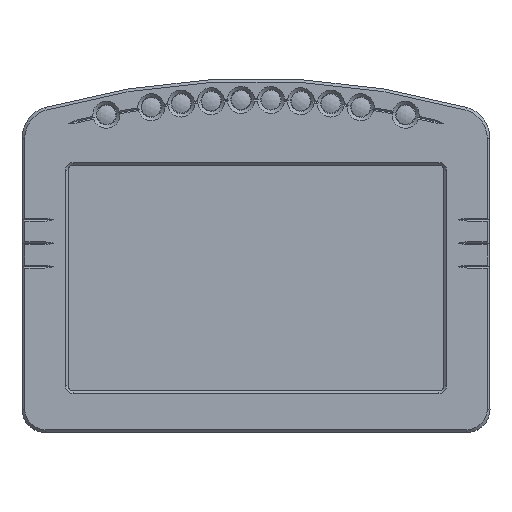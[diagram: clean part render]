
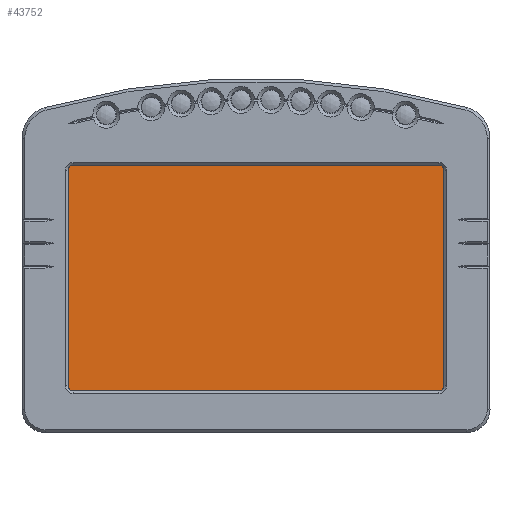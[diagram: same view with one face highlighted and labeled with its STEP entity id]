
A CAD part, top view. The second image highlights one B-rep face of the part: STEP entity #43752.
In plain terms, the highlighted planar face has unit normal (0, 0, 1).
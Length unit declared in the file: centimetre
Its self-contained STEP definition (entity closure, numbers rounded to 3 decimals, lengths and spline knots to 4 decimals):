
#2776=CIRCLE('',#45722,0.15);
#2777=CIRCLE('',#45725,0.15);
#2778=CIRCLE('',#45727,0.15);
#2779=CIRCLE('',#45730,0.15);
#6335=VERTEX_POINT('',#64463);
#6336=VERTEX_POINT('',#64465);
#6337=VERTEX_POINT('',#64469);
#6338=VERTEX_POINT('',#64473);
#6339=VERTEX_POINT('',#64477);
#6340=VERTEX_POINT('',#64481);
#6341=VERTEX_POINT('',#64483);
#6342=VERTEX_POINT('',#64487);
#11796=VECTOR('',#51054,1.);
#11800=VECTOR('',#51063,1.);
#11805=VECTOR('',#51077,1.);
#11806=VECTOR('',#51083,1.);
#14814=LINE('',#64464,#11796);
#14818=LINE('',#64474,#11800);
#14823=LINE('',#64488,#11805);
#14824=LINE('',#64492,#11806);
#18020=EDGE_CURVE('',#6336,#6335,#14814,.T.);
#18023=EDGE_CURVE('',#6335,#6337,#2776,.T.);
#18025=EDGE_CURVE('',#6337,#6338,#14818,.T.);
#18027=EDGE_CURVE('',#6338,#6339,#2777,.T.);
#18029=EDGE_CURVE('',#6341,#6340,#2778,.T.);
#18032=EDGE_CURVE('',#6340,#6342,#14823,.T.);
#18033=EDGE_CURVE('',#6342,#6336,#2779,.T.);
#18034=EDGE_CURVE('',#6339,#6341,#14824,.T.);
#25544=ORIENTED_EDGE('',*,*,#18029,.T.);
#25545=ORIENTED_EDGE('',*,*,#18032,.T.);
#25546=ORIENTED_EDGE('',*,*,#18033,.T.);
#25547=ORIENTED_EDGE('',*,*,#18020,.T.);
#25548=ORIENTED_EDGE('',*,*,#18023,.T.);
#25549=ORIENTED_EDGE('',*,*,#18025,.T.);
#25550=ORIENTED_EDGE('',*,*,#18027,.T.);
#25551=ORIENTED_EDGE('',*,*,#18034,.T.);
#39590=EDGE_LOOP('',(#25544,#25545,#25546,#25547,#25548,#25549,#25550,#25551));
#41678=FACE_BOUND('',#39590,.T.);
#43752=ADVANCED_FACE('',(#41678),#114374,.T.);
#45722=AXIS2_PLACEMENT_3D('',#64470,#51059,#51060);
#45725=AXIS2_PLACEMENT_3D('',#64478,#51067,#51068);
#45727=AXIS2_PLACEMENT_3D('',#64482,#51072,#51073);
#45730=AXIS2_PLACEMENT_3D('',#64490,#51080,#51081);
#45732=AXIS2_PLACEMENT_3D('',#64493,#51084,$);
#51054=DIRECTION('',(0.,1.,0.));
#51059=DIRECTION('',(0.,0.,1.));
#51060=DIRECTION('',(0.15,0.,0.));
#51063=DIRECTION('',(-1.,0.,0.));
#51067=DIRECTION('',(0.,0.,1.));
#51068=DIRECTION('',(0.15,0.,0.));
#51072=DIRECTION('',(0.,0.,1.));
#51073=DIRECTION('',(0.15,0.,0.));
#51077=DIRECTION('',(1.,0.,0.));
#51080=DIRECTION('',(0.,0.,1.));
#51081=DIRECTION('',(0.15,0.,0.));
#51083=DIRECTION('',(0.,-1.,0.));
#51084=DIRECTION('',(0.,0.,1.));
#64463=CARTESIAN_POINT('',(12.125,7.53,1.78));
#64464=CARTESIAN_POINT('',(12.125,7.53,1.78));
#64465=CARTESIAN_POINT('',(12.125,1.35,1.78));
#64469=CARTESIAN_POINT('',(11.975,7.68,1.78));
#64470=CARTESIAN_POINT('',(11.975,7.53,1.78));
#64473=CARTESIAN_POINT('',(1.475,7.68,1.78));
#64474=CARTESIAN_POINT('',(1.475,7.68,1.78));
#64477=CARTESIAN_POINT('',(1.325,7.53,1.78));
#64478=CARTESIAN_POINT('',(1.475,7.53,1.78));
#64481=CARTESIAN_POINT('',(1.475,1.2,1.78));
#64482=CARTESIAN_POINT('',(1.475,1.35,1.78));
#64483=CARTESIAN_POINT('',(1.325,1.35,1.78));
#64487=CARTESIAN_POINT('',(11.975,1.2,1.78));
#64488=CARTESIAN_POINT('',(11.975,1.2,1.78));
#64490=CARTESIAN_POINT('',(11.975,1.35,1.78));
#64492=CARTESIAN_POINT('',(1.325,1.35,1.78));
#64493=CARTESIAN_POINT('',(6.725,4.44,1.78));
#114374=PLANE('',#45732);
